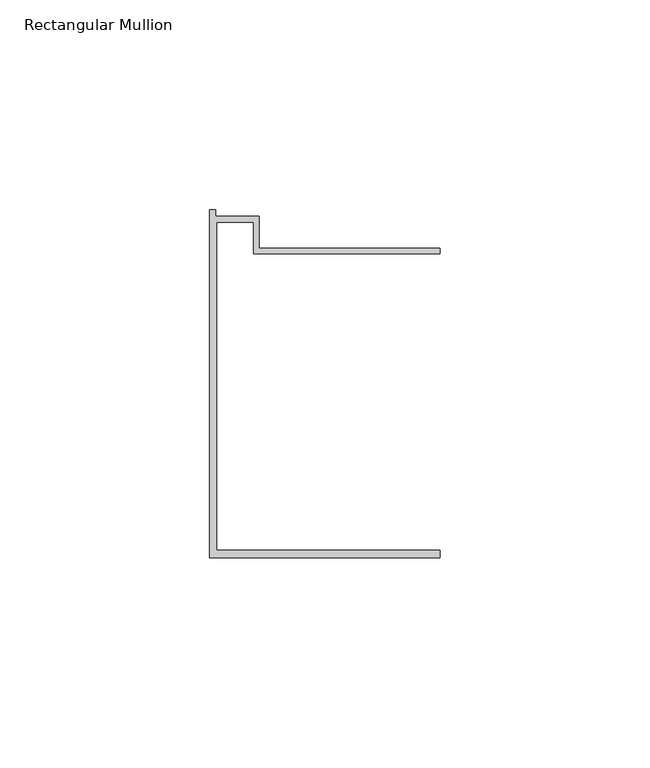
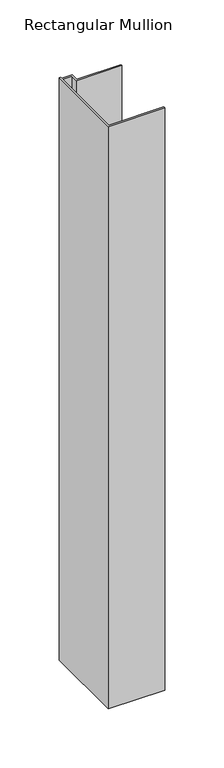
"""IFC4 building model written with IfcOpenShell, lengths in millimetres: member geometry, Rectangular Mullion : Danpal Top Mullion."""

from ifc_helpers import new_model, si_unit, frame, origin, place, context, project, spatial, polyline, outline, extrude, source, transform, mapped, element, save


def rectangular_mullion_f2670d49(model_context):
    return source(origin(), model_context, "Body", "SweptSolid", [
        extrude(outline(polyline([(0.0, 80.8144448), (-44.4546632, 80.8144448), (-44.4546632, 88.4144116), (-53.2546474, 88.4144116), (-53.2546474, 10.2068341), (0.0, 10.2068341), (0.0, 8.4568509), (-54.8546474, 8.4568509), (-54.8546474, 91.3144448), (-53.4546474, 91.3144448), (-53.4546474, 89.8206003), (-43.0546632, 89.8206003), (-43.0546632, 82.2144448), (0.0, 82.2144448), (0.0, 80.8144448)])), frame((0.0, 0.0, -600.0), z_axis=(0.0, 0.0, 1.0), x_axis=(1.0, 0.0, 0.0)), (0.0, 0.0, 1.0), 600.0),
    ])


if __name__ == "__main__":
    model = new_model("IFC4")
    model_context = context("Model", 3, world=origin())
    ifc_project = project(units=[si_unit("LENGTHUNIT", "METRE", prefix="MILLI")], contexts=[model_context])
    site = spatial("IfcSite", under=ifc_project)
    building = spatial("IfcBuilding", under=site)
    placement = place(None, origin())
    rectangular_mullion_shape = rectangular_mullion_f2670d49(model_context)
    element("IfcMember", 1, ObjectType="Rectangular Mullion : Danpal Top Mullion", at=placement, inside=building, context=model_context, shape_type="MappedRepresentation", body=[
        mapped(rectangular_mullion_shape, transform((0.0, 0.0, 0.0), x_axis=(1.0, 0.0, 0.0), y_axis=(0.0, 1.0, 0.0), z_axis=(0.0, 0.0, 1.0))),
    ])
    save(model, "model.ifc")
